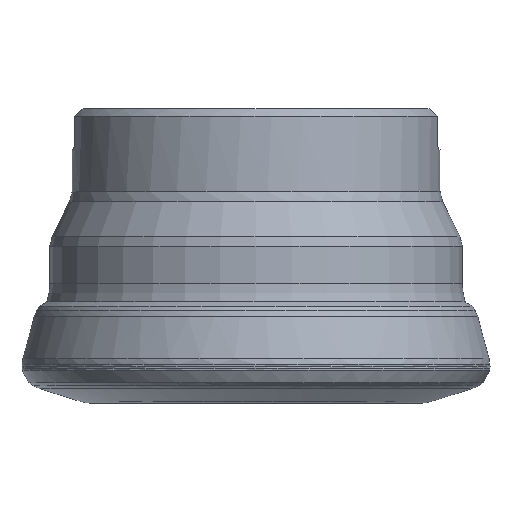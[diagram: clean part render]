
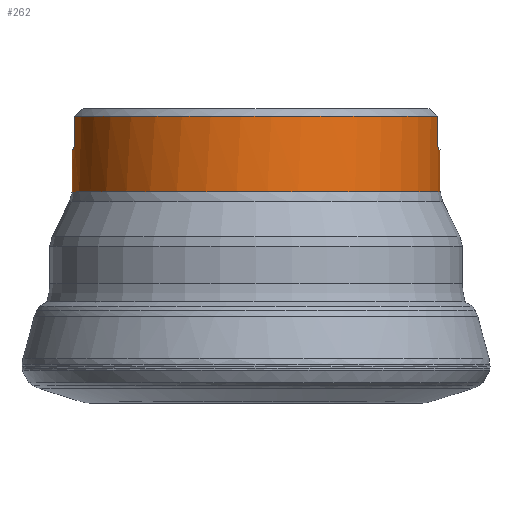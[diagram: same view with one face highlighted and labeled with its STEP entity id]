
A CAD part, left-side view. The second image highlights one B-rep face of the part: STEP entity #262.
In plain terms, the highlighted cylindrical face has radius 25 mm (diameter 50 mm), a full revolution.
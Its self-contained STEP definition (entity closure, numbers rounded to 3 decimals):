
#147=CYLINDRICAL_SURFACE('',#1222,25.);
#157=LINE('',#1686,#181);
#158=LINE('',#1690,#182);
#159=LINE('',#1728,#183);
#160=LINE('',#1732,#184);
#181=VECTOR('',#1362,1.);
#182=VECTOR('',#1365,1.);
#183=VECTOR('',#1368,1.);
#184=VECTOR('',#1371,1.);
#205=B_SPLINE_CURVE_WITH_KNOTS('',3,(#1668,#1669,#1670,#1671,#1672,#1673,
#1674,#1675,#1676,#1677,#1678,#1679,#1680,#1681,#1682,#1683),
 .UNSPECIFIED.,.F.,.F.,(4,3,3,3,3,4),(0.,0.212,0.424,
0.637,0.852,1.),.UNSPECIFIED.);
#206=B_SPLINE_CURVE_WITH_KNOTS('',3,(#1692,#1693,#1694,#1695,#1696,#1697,
#1698,#1699,#1700,#1701,#1702,#1703,#1704,#1705,#1706,#1707),
 .UNSPECIFIED.,.F.,.F.,(4,3,3,3,3,4),(0.,0.218,0.436,
0.653,0.868,1.),.UNSPECIFIED.);
#207=B_SPLINE_CURVE_WITH_KNOTS('',3,(#1711,#1712,#1713,#1714,#1715,#1716,
#1717,#1718,#1719,#1720,#1721,#1722,#1723,#1724,#1725,#1726),
 .UNSPECIFIED.,.F.,.F.,(4,3,3,3,3,4),(0.,0.212,0.424,
0.637,0.852,1.),.UNSPECIFIED.);
#208=B_SPLINE_CURVE_WITH_KNOTS('',3,(#1734,#1735,#1736,#1737,#1738,#1739,
#1740,#1741,#1742,#1743,#1744,#1745,#1746,#1747,#1748,#1749),
 .UNSPECIFIED.,.F.,.F.,(4,3,3,3,3,4),(0.,0.218,0.436,
0.653,0.868,1.),.UNSPECIFIED.);
#262=ADVANCED_FACE('',(#374,#375),#147,.T.);
#374=FACE_BOUND('',#508,.T.);
#375=FACE_BOUND('',#509,.T.);
#508=EDGE_LOOP('',(#666));
#509=EDGE_LOOP('',(#667,#668,#669,#670,#671,#672,#673,#674,#675,#676,#677,
#678));
#666=ORIENTED_EDGE('',*,*,#1032,.T.);
#667=ORIENTED_EDGE('',*,*,#1033,.F.);
#668=ORIENTED_EDGE('',*,*,#1034,.T.);
#669=ORIENTED_EDGE('',*,*,#1035,.T.);
#670=ORIENTED_EDGE('',*,*,#1036,.T.);
#671=ORIENTED_EDGE('',*,*,#1037,.F.);
#672=ORIENTED_EDGE('',*,*,#1038,.F.);
#673=ORIENTED_EDGE('',*,*,#1039,.F.);
#674=ORIENTED_EDGE('',*,*,#1040,.T.);
#675=ORIENTED_EDGE('',*,*,#1041,.T.);
#676=ORIENTED_EDGE('',*,*,#1042,.T.);
#677=ORIENTED_EDGE('',*,*,#1043,.F.);
#678=ORIENTED_EDGE('',*,*,#1044,.F.);
#926=VERTEX_POINT('',#1667);
#927=VERTEX_POINT('',#1684);
#928=VERTEX_POINT('',#1685);
#929=VERTEX_POINT('',#1687);
#930=VERTEX_POINT('',#1689);
#931=VERTEX_POINT('',#1691);
#932=VERTEX_POINT('',#1708);
#933=VERTEX_POINT('',#1710);
#934=VERTEX_POINT('',#1727);
#935=VERTEX_POINT('',#1729);
#936=VERTEX_POINT('',#1731);
#937=VERTEX_POINT('',#1733);
#938=VERTEX_POINT('',#1750);
#1032=EDGE_CURVE('',#926,#926,#1162,.T.);
#1033=EDGE_CURVE('',#927,#928,#205,.T.);
#1034=EDGE_CURVE('',#927,#929,#157,.T.);
#1035=EDGE_CURVE('',#929,#930,#1163,.T.);
#1036=EDGE_CURVE('',#930,#931,#158,.T.);
#1037=EDGE_CURVE('',#932,#931,#206,.T.);
#1038=EDGE_CURVE('',#933,#932,#1164,.T.);
#1039=EDGE_CURVE('',#934,#933,#207,.T.);
#1040=EDGE_CURVE('',#934,#935,#159,.T.);
#1041=EDGE_CURVE('',#935,#936,#1165,.T.);
#1042=EDGE_CURVE('',#936,#937,#160,.T.);
#1043=EDGE_CURVE('',#938,#937,#208,.T.);
#1044=EDGE_CURVE('',#928,#938,#1166,.T.);
#1162=CIRCLE('',#1217,25.);
#1163=CIRCLE('',#1218,25.);
#1164=CIRCLE('',#1219,25.);
#1165=CIRCLE('',#1220,25.);
#1166=CIRCLE('',#1221,25.);
#1217=AXIS2_PLACEMENT_3D('',#1666,#1360,#1361);
#1218=AXIS2_PLACEMENT_3D('',#1688,#1363,#1364);
#1219=AXIS2_PLACEMENT_3D('',#1709,#1366,#1367);
#1220=AXIS2_PLACEMENT_3D('',#1730,#1369,#1370);
#1221=AXIS2_PLACEMENT_3D('',#1751,#1372,#1373);
#1222=AXIS2_PLACEMENT_3D('',#1752,#1374,#1375);
#1360=DIRECTION('',(0.,0.,1.));
#1361=DIRECTION('',(1.,0.,0.));
#1362=DIRECTION('',(0.,0.,1.));
#1363=DIRECTION('',(0.,0.,-1.));
#1364=DIRECTION('',(1.,0.,0.));
#1365=DIRECTION('',(0.,0.,-1.));
#1366=DIRECTION('',(0.,0.,1.));
#1367=DIRECTION('',(-1.,0.,0.));
#1368=DIRECTION('',(0.,0.,1.));
#1369=DIRECTION('',(0.,0.,-1.));
#1370=DIRECTION('',(1.,0.,0.));
#1371=DIRECTION('',(0.,0.,-1.));
#1372=DIRECTION('',(0.,0.,1.));
#1373=DIRECTION('',(-1.,0.,0.));
#1374=DIRECTION('',(0.,0.,1.));
#1375=DIRECTION('',(-1.,0.,0.));
#1666=CARTESIAN_POINT('',(0.,0.,28.708));
#1667=CARTESIAN_POINT('',(25.,0.,28.708));
#1668=CARTESIAN_POINT('',(3.975,24.682,34.9));
#1669=CARTESIAN_POINT('',(3.975,24.682,34.845));
#1670=CARTESIAN_POINT('',(3.966,24.683,34.788));
#1671=CARTESIAN_POINT('',(3.947,24.686,34.736));
#1672=CARTESIAN_POINT('',(3.929,24.689,34.684));
#1673=CARTESIAN_POINT('',(3.902,24.694,34.634));
#1674=CARTESIAN_POINT('',(3.868,24.699,34.591));
#1675=CARTESIAN_POINT('',(3.833,24.704,34.547));
#1676=CARTESIAN_POINT('',(3.791,24.711,34.509));
#1677=CARTESIAN_POINT('',(3.745,24.718,34.479));
#1678=CARTESIAN_POINT('',(3.697,24.725,34.449));
#1679=CARTESIAN_POINT('',(3.644,24.733,34.426));
#1680=CARTESIAN_POINT('',(3.59,24.741,34.413));
#1681=CARTESIAN_POINT('',(3.553,24.746,34.405));
#1682=CARTESIAN_POINT('',(3.514,24.752,34.4));
#1683=CARTESIAN_POINT('',(3.475,24.757,34.4));
#1684=CARTESIAN_POINT('',(3.975,24.682,34.9));
#1685=CARTESIAN_POINT('',(3.475,24.757,34.4));
#1686=CARTESIAN_POINT('',(3.975,24.682,0.));
#1687=CARTESIAN_POINT('',(3.975,24.682,39.));
#1688=CARTESIAN_POINT('',(0.,0.,39.));
#1689=CARTESIAN_POINT('',(3.975,-24.682,39.));
#1690=CARTESIAN_POINT('',(3.975,-24.682,0.));
#1691=CARTESIAN_POINT('',(3.975,-24.682,34.9));
#1692=CARTESIAN_POINT('',(3.475,-24.757,34.4));
#1693=CARTESIAN_POINT('',(3.531,-24.749,34.4));
#1694=CARTESIAN_POINT('',(3.589,-24.741,34.41));
#1695=CARTESIAN_POINT('',(3.642,-24.733,34.429));
#1696=CARTESIAN_POINT('',(3.695,-24.725,34.448));
#1697=CARTESIAN_POINT('',(3.746,-24.718,34.476));
#1698=CARTESIAN_POINT('',(3.79,-24.711,34.512));
#1699=CARTESIAN_POINT('',(3.834,-24.704,34.547));
#1700=CARTESIAN_POINT('',(3.872,-24.698,34.591));
#1701=CARTESIAN_POINT('',(3.902,-24.694,34.639));
#1702=CARTESIAN_POINT('',(3.931,-24.689,34.687));
#1703=CARTESIAN_POINT('',(3.952,-24.686,34.741));
#1704=CARTESIAN_POINT('',(3.964,-24.684,34.796));
#1705=CARTESIAN_POINT('',(3.971,-24.683,34.83));
#1706=CARTESIAN_POINT('',(3.975,-24.682,34.865));
#1707=CARTESIAN_POINT('',(3.975,-24.682,34.9));
#1708=CARTESIAN_POINT('',(3.475,-24.757,34.4));
#1709=CARTESIAN_POINT('',(0.,0.,34.4));
#1710=CARTESIAN_POINT('',(-3.475,-24.757,34.4));
#1711=CARTESIAN_POINT('',(-3.975,-24.682,34.9));
#1712=CARTESIAN_POINT('',(-3.975,-24.682,34.845));
#1713=CARTESIAN_POINT('',(-3.966,-24.683,34.788));
#1714=CARTESIAN_POINT('',(-3.947,-24.686,34.736));
#1715=CARTESIAN_POINT('',(-3.929,-24.689,34.684));
#1716=CARTESIAN_POINT('',(-3.902,-24.694,34.634));
#1717=CARTESIAN_POINT('',(-3.868,-24.699,34.591));
#1718=CARTESIAN_POINT('',(-3.833,-24.704,34.547));
#1719=CARTESIAN_POINT('',(-3.791,-24.711,34.509));
#1720=CARTESIAN_POINT('',(-3.745,-24.718,34.479));
#1721=CARTESIAN_POINT('',(-3.697,-24.725,34.449));
#1722=CARTESIAN_POINT('',(-3.644,-24.733,34.426));
#1723=CARTESIAN_POINT('',(-3.59,-24.741,34.413));
#1724=CARTESIAN_POINT('',(-3.553,-24.746,34.405));
#1725=CARTESIAN_POINT('',(-3.514,-24.752,34.4));
#1726=CARTESIAN_POINT('',(-3.475,-24.757,34.4));
#1727=CARTESIAN_POINT('',(-3.975,-24.682,34.9));
#1728=CARTESIAN_POINT('',(-3.975,-24.682,0.));
#1729=CARTESIAN_POINT('',(-3.975,-24.682,39.));
#1730=CARTESIAN_POINT('',(0.,0.,39.));
#1731=CARTESIAN_POINT('',(-3.975,24.682,39.));
#1732=CARTESIAN_POINT('',(-3.975,24.682,0.));
#1733=CARTESIAN_POINT('',(-3.975,24.682,34.9));
#1734=CARTESIAN_POINT('',(-3.475,24.757,34.4));
#1735=CARTESIAN_POINT('',(-3.531,24.749,34.4));
#1736=CARTESIAN_POINT('',(-3.589,24.741,34.41));
#1737=CARTESIAN_POINT('',(-3.642,24.733,34.429));
#1738=CARTESIAN_POINT('',(-3.695,24.725,34.448));
#1739=CARTESIAN_POINT('',(-3.746,24.718,34.476));
#1740=CARTESIAN_POINT('',(-3.79,24.711,34.512));
#1741=CARTESIAN_POINT('',(-3.834,24.704,34.547));
#1742=CARTESIAN_POINT('',(-3.872,24.698,34.591));
#1743=CARTESIAN_POINT('',(-3.902,24.694,34.639));
#1744=CARTESIAN_POINT('',(-3.931,24.689,34.687));
#1745=CARTESIAN_POINT('',(-3.952,24.686,34.741));
#1746=CARTESIAN_POINT('',(-3.964,24.684,34.796));
#1747=CARTESIAN_POINT('',(-3.971,24.683,34.83));
#1748=CARTESIAN_POINT('',(-3.975,24.682,34.865));
#1749=CARTESIAN_POINT('',(-3.975,24.682,34.9));
#1750=CARTESIAN_POINT('',(-3.475,24.757,34.4));
#1751=CARTESIAN_POINT('',(0.,0.,34.4));
#1752=CARTESIAN_POINT('',(0.,0.,0.));
